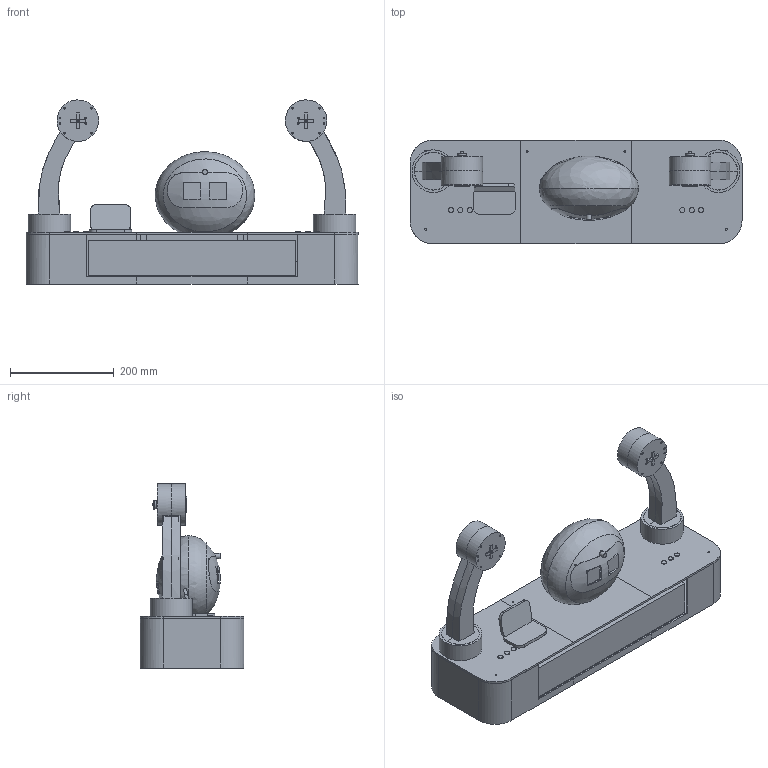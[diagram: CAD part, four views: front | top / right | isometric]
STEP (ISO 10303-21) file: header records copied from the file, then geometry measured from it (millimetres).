
FILE_DESCRIPTION(('SolidCraft model'),'2;1');
FILE_NAME('base_P2.step','',(''),(''),'SolidCraft','SolidCraft','');
FILE_SCHEMA(('AP242_MANAGED_MODEL_BASED_3D_ENGINEERING_MIM_LF { 1 0 10303 442 1 1 4 }'));
Length unit declared in the file: millimetre
Products named in the file (89): P1_closed_base; fold_wing_v7_P1_assembly; PILL_BASE_TRAY_1; PILL_BASE_TRAY_1_part; PILL_BASE_LID_1; PILL_BASE_LID_1_part; PILL_BASE_TRAY_2; PILL_BASE_TRAY_2_part; PILL_BASE_LID_2; PILL_BASE_LID_2_part; PILL_BASE_TRAY_3; PILL_BASE_TRAY_3_part; PILL_BASE_LID_3; PILL_BASE_LID_3_part; SEAM_PLATE_1; SEAM_PLATE_1_part; SEAM_PLATE_2; SEAM_PLATE_2_part; BA_R9_ENVELOPE; BA_R9_ENVELOPE_part; PEBBLE_HEAD_FRONT_TRIAL; PEBBLE_HEAD_FRONT_TRIAL_part; PEBBLE_HEAD_REAR_TRIAL; PEBBLE_HEAD_REAR_TRIAL_part; CAPSULE_VISOR_TRIAL; CAPSULE_VISOR_TRIAL_part; EYE_1_DISPLAY_ONLY; EYE_1_DISPLAY_ONLY_part; EYE_2_DISPLAY_ONLY; EYE_2_DISPLAY_ONLY_part; CAMERA_LENS_TRIAL; CAMERA_LENS_TRIAL_part; JETSON_RESERVED_ZONE; JETSON_RESERVED_ZONE_part; POWER_RESERVED_ZONE; POWER_RESERVED_ZONE_part; BATTERY_RESERVED_ZONE; BATTERY_RESERVED_ZONE_part; L_ROUND_YAW_COLLAR_TRIAL; L_ROUND_YAW_COLLAR_TRIAL_part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
Assembly tree (88 placements, depth 5):
  P1_closed_base
    P1_closed_base
      fold_wing_v7_P1_assembly
        PILL_BASE_TRAY_1
          PILL_BASE_TRAY_1_part
        PILL_BASE_LID_1
          PILL_BASE_LID_1_part
        PILL_BASE_TRAY_2
          PILL_BASE_TRAY_2_part
        PILL_BASE_LID_2
          PILL_BASE_LID_2_part
        PILL_BASE_TRAY_3
          PILL_BASE_TRAY_3_part
        PILL_BASE_LID_3
          PILL_BASE_LID_3_part
        SEAM_PLATE_1
          SEAM_PLATE_1_part
        SEAM_PLATE_2
          SEAM_PLATE_2_part
        BA_R9_ENVELOPE
          BA_R9_ENVELOPE_part
        PEBBLE_HEAD_FRONT_TRIAL
          PEBBLE_HEAD_FRONT_TRIAL_part
        PEBBLE_HEAD_REAR_TRIAL
          PEBBLE_HEAD_REAR_TRIAL_part
        CAPSULE_VISOR_TRIAL
          CAPSULE_VISOR_TRIAL_part
        EYE_1_DISPLAY_ONLY
          EYE_1_DISPLAY_ONLY_part
        EYE_2_DISPLAY_ONLY
          EYE_2_DISPLAY_ONLY_part
        CAMERA_LENS_TRIAL
          CAMERA_LENS_TRIAL_part
        JETSON_RESERVED_ZONE
          JETSON_RESERVED_ZONE_part
        POWER_RESERVED_ZONE
          POWER_RESERVED_ZONE_part
        BATTERY_RESERVED_ZONE
          BATTERY_RESERVED_ZONE_part
        L_ROUND_YAW_COLLAR_TRIAL
          L_ROUND_YAW_COLLAR_TRIAL_part
        L_YAW_SERVO_INSIDE_BASE
          L_YAW_SERVO_INSIDE_BASE_part
        L_CURVED_ARM_CORE_FRONT
          L_CURVED_ARM_CORE_FRONT_part
        L_CURVED_ARM_CORE_REAR
          L_CURVED_ARM_CORE_REAR_part
        L_PITCH_SERVO_EMBEDDED
          L_PITCH_SERVO_EMBEDDED_part
        L_SHORT_SERVO_SHAFT_TRIAL
          L_SHORT_SERVO_SHAFT_TRIAL_part
        L_ACTUAL_CROSS_HORN_PLACEHOLDER
          L_ACTUAL_CROSS_HORN_PLACEHOLDER_part
        L_F625ZZ_BEARING
          L_F625ZZ_BEARING_part
        L_FIXED_SUPPORT_STUB_TRIAL
          L_FIXED_SUPPORT_STUB_TRIAL_part
        L_TOUCH_0
          L_TOUCH_0_part
        L_TOUCH_1
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Bounding box: 640 x 200 x 355 mm (x, y, z)
Volume: 5336761.7 mm3; surface area: 1460269.3 mm2
Topology: 45 solids, 45 shells, 850 faces, 2444 edges, 1733 vertices
Faces by surface type: plane 585, cylinder 221, bspline 44
Full cylindrical faces by diameter (mm): 3.2 x2, 3.4 x68, 4 x8, 4.4 x8, 4.9 x2, 5 x4, 6 x2, 8 x2, 9 x2, 10 x7, 16 x2, 18 x2, 73 x2, 80 x4, 82 x2
Entity records: 26113 total; most frequent: CARTESIAN_POINT 8942, ORIENTED_EDGE 4880, EDGE_CURVE 2440, VERTEX_POINT 1733, LINE 1367, EDGE_LOOP 1089, FACE_BOUND 1089, ADVANCED_FACE 850
